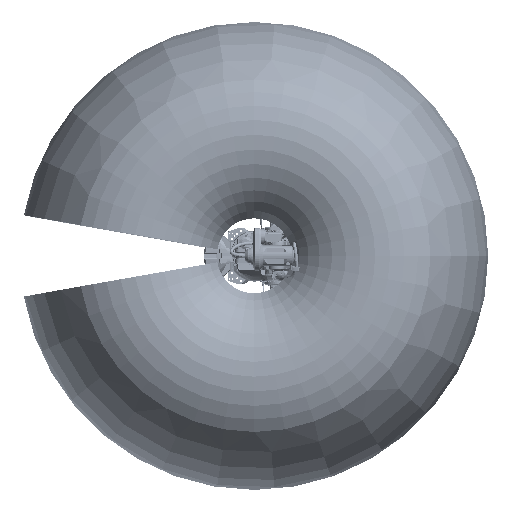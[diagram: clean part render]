
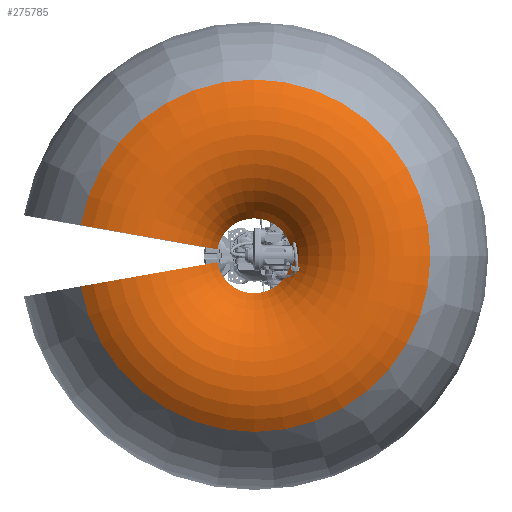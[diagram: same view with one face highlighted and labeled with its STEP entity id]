
A CAD part, top view. The second image highlights one B-rep face of the part: STEP entity #275785.
In plain terms, the highlighted toroidal (fillet/blend) face has major radius 1705.64 mm and minor radius 1295 mm.
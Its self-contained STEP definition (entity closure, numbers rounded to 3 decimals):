
#4192 = ORIENTED_EDGE ( 'NONE', *, *, #611180, .T. ) ;
#16369 = VERTEX_POINT ( 'NONE', #403347 ) ;
#38454 = AXIS2_PLACEMENT_3D ( 'NONE', #508408, #511502, #272265 ) ;
#62478 = CARTESIAN_POINT ( 'NONE',  ( 0., 0., 2520.008 ) ) ;
#70704 = CIRCLE ( 'NONE', #563130, 1295. ) ;
#83560 = DIRECTION ( 'NONE',  ( 0.174, 0.985, 0. ) ) ;
#83681 = CARTESIAN_POINT ( 'NONE',  ( 0., 0., 2993.192 ) ) ;
#86568 = CARTESIAN_POINT ( 'NONE',  ( -2464.899, -434.628, 2993.192 ) ) ;
#124584 = CARTESIAN_POINT ( 'NONE',  ( -1679.729, 296.182, 1972.718 ) ) ;
#133974 = DIRECTION ( 'NONE',  ( 0., 0., -1. ) ) ;
#151824 = CIRCLE ( 'NONE', #252450, 531.973 ) ;
#191192 = EDGE_CURVE ( 'NONE', #16369, #484976, #445653, .T. ) ;
#194205 = TOROIDAL_SURFACE ( 'NONE', #213020, 1705.642, 1295. ) ;
#213020 = AXIS2_PLACEMENT_3D ( 'NONE', #239043, #575740, #528558 ) ;
#239043 = CARTESIAN_POINT ( 'NONE',  ( 0., 0., 1972.718 ) ) ;
#252450 = AXIS2_PLACEMENT_3D ( 'NONE', #62478, #408605, #257596 ) ;
#255811 = CARTESIAN_POINT ( 'NONE',  ( -523.892, 92.376, 2520.008 ) ) ;
#257596 = DIRECTION ( 'NONE',  ( -1., 0., 0. ) ) ;
#263602 = EDGE_CURVE ( 'NONE', #484976, #565097, #581203, .T. ) ;
#269808 = ORIENTED_EDGE ( 'NONE', *, *, #328736, .T. ) ;
#272265 = DIRECTION ( 'NONE',  ( 0., 0., 1. ) ) ;
#275785 = ADVANCED_FACE ( 'NONE', ( #478239 ), #194205, .T. ) ;
#303964 = ORIENTED_EDGE ( 'NONE', *, *, #191192, .F. ) ;
#316492 = DIRECTION ( 'NONE',  ( 0., 0., 1. ) ) ;
#328736 = EDGE_CURVE ( 'NONE', #436445, #565097, #151824, .T. ) ;
#329113 = DIRECTION ( 'NONE',  ( -1., 0., 0. ) ) ;
#341993 = ORIENTED_EDGE ( 'NONE', *, *, #263602, .F. ) ;
#395730 = AXIS2_PLACEMENT_3D ( 'NONE', #83681, #133974, #329113 ) ;
#403347 = CARTESIAN_POINT ( 'NONE',  ( -2464.899, 434.628, 2993.192 ) ) ;
#408605 = DIRECTION ( 'NONE',  ( 0., 0., -1. ) ) ;
#422836 = CARTESIAN_POINT ( 'NONE',  ( -523.892, -92.376, 2520.008 ) ) ;
#436445 = VERTEX_POINT ( 'NONE', #255811 ) ;
#445653 = CIRCLE ( 'NONE', #395730, 2502.924 ) ;
#478239 = FACE_OUTER_BOUND ( 'NONE', #479699, .T. ) ;
#479699 = EDGE_LOOP ( 'NONE', ( #269808, #341993, #303964, #4192 ) ) ;
#484976 = VERTEX_POINT ( 'NONE', #86568 ) ;
#508408 = CARTESIAN_POINT ( 'NONE',  ( -1679.729, -296.182, 1972.718 ) ) ;
#511502 = DIRECTION ( 'NONE',  ( -0.174, 0.985, 0. ) ) ;
#528558 = DIRECTION ( 'NONE',  ( -1., 0., 0. ) ) ;
#563130 = AXIS2_PLACEMENT_3D ( 'NONE', #124584, #83560, #316492 ) ;
#565097 = VERTEX_POINT ( 'NONE', #422836 ) ;
#575740 = DIRECTION ( 'NONE',  ( 0., 0., -1. ) ) ;
#581203 = CIRCLE ( 'NONE', #38454, 1295. ) ;
#611180 = EDGE_CURVE ( 'NONE', #16369, #436445, #70704, .T. ) ;
